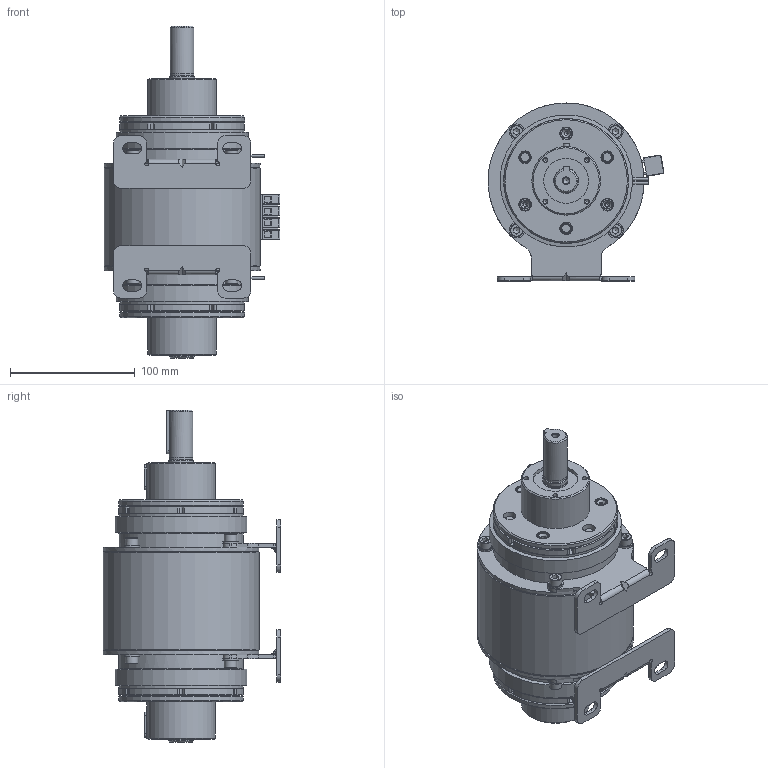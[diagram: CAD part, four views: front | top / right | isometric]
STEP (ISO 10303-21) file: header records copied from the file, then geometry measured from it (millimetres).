
FILE_DESCRIPTION (( 'STEP AP203' ), '1' );
FILE_NAME ('S-M20-A23_.STEP', '2021-10-15T01:31:28', ( '' ), ( '' ), 'SwSTEP 2.0', 'SolidWorks 2015', '' );
FILE_SCHEMA (( 'CONFIG_CONTROL_DESIGN' ));
Length unit declared in the file: millimetre
Products named in the file (1): S-M20-A23_
Bounding box: 140.81 x 142.5 x 266 mm (x, y, z)
Volume: 1856639.5 mm3; surface area: 172058.7 mm2
Topology: 2 solids, 6 shells, 970 faces, 2342 edges, 1475 vertices
Faces by surface type: plane 506, cylinder 338, cone 86, torus 32, bspline 8
Full cylindrical faces by diameter (mm): 2 x4, 3 x12, 3.3 x8, 3.4 x2, 3.8 x8, 4 x8, 5 x10, 5.1 x8, 6 x10, 7 x8, 7.8 x12, 8 x2, 9 x12, 10 x20, 18.6 x1, 19 x3, 20 x4, 36 x2, 55 x2, 65.5 x2, 88 x2, 100 x6, 100.5 x2, 106 x2, 125 x3
Entity records: 26578 total; most frequent: CARTESIAN_POINT 4945, DIRECTION 4769, ORIENTED_EDGE 3940, EDGE_CURVE 1970, AXIS2_PLACEMENT_3D 1881, EDGE_LOOP 1365, VERTEX_POINT 1363, FACE_OUTER_BOUND 1139
